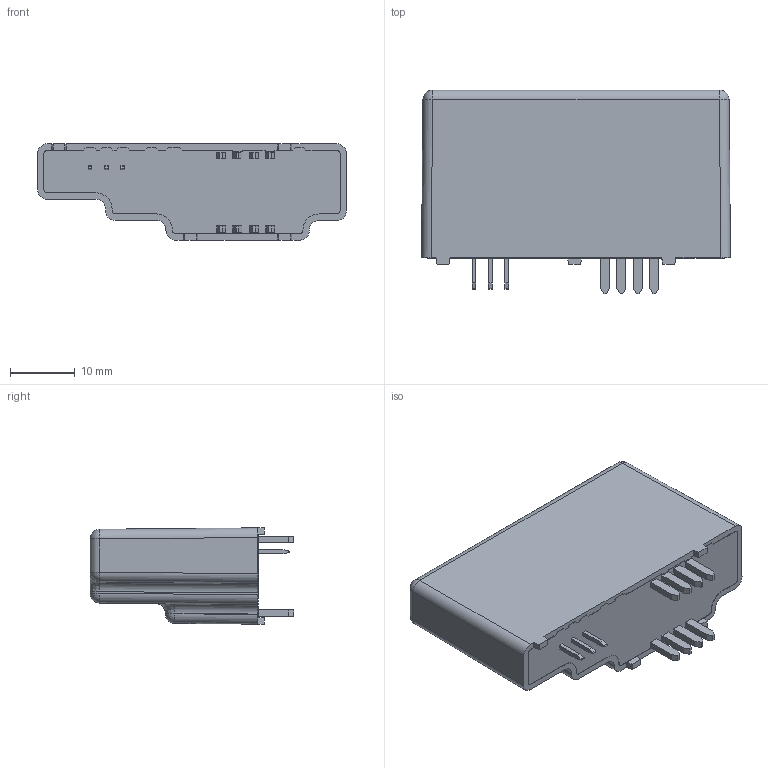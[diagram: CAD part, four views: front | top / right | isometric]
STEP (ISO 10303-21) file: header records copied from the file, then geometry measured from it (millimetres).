
FILE_DESCRIPTION(('Creo Elements/Direct Modeling STEP Export'),'2;1');
FILE_NAME('LAH 125_P.stp','2018-02-02T10:33:41',(''),(''),'PTC Creo Elements/Direct Modeling STEP processor for AP214 (Solid Model)','PTC Creo Elements/Direct Modeling 19.0E 27-Jun-2016 (C) Parametric Technology GmbH','');
FILE_SCHEMA(('AUTOMOTIVE_DESIGN { 1 0 10303 214 1 1 1 1 }'));
Length unit declared in the file: millimetre
Products named in the file (2): BOITIER-68570.PRT; BOITIER-69710.ASM
Assembly tree (1 placements, depth 2):
  BOITIER-69710.ASM
    BOITIER-68570.PRT
Bounding box: 47.9 x 31.6 x 14.95 mm (x, y, z)
Volume: 14500.6 mm3; surface area: 4368.9 mm2
Topology: 1 solids, 1 shells, 193 faces, 512 edges, 325 vertices
Faces by surface type: plane 150, cylinder 33, sphere 7, bspline 3
Entity records: 7025 total; most frequent: CARTESIAN_POINT 1572, ORIENTED_EDGE 1010, DIRECTION 934, EDGE_CURVE 505, VECTOR 434, LINE 434, VERTEX_POINT 325, AXIS2_PLACEMENT_3D 250
